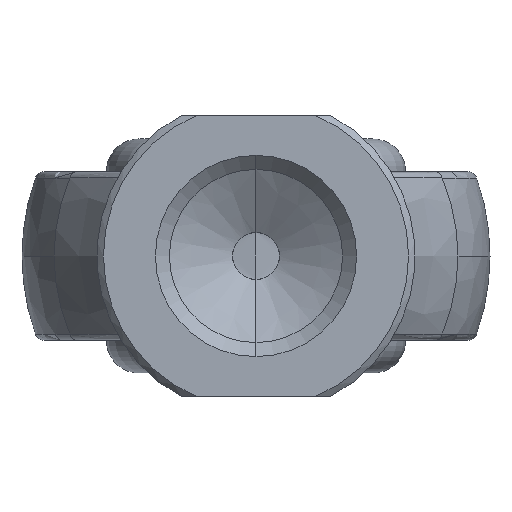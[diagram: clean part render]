
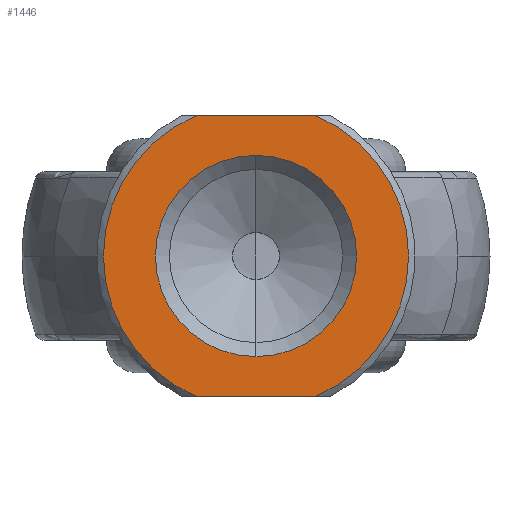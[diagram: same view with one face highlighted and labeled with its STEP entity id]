
A CAD part, left-side view. The second image highlights one B-rep face of the part: STEP entity #1446.
In plain terms, the highlighted planar face has unit normal (-1, 0, 0).
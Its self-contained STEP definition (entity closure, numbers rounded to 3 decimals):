
#5 = EDGE_CURVE ( 'NONE', #1125, #1713, #570, .T. ) ;
#58 = EDGE_CURVE ( 'NONE', #2179, #814, #1355, .T. ) ;
#89 = DIRECTION ( 'NONE',  ( 0., 1., 0. ) ) ;
#96 = VECTOR ( 'NONE', #2101, 1000. ) ;
#101 = AXIS2_PLACEMENT_3D ( 'NONE', #1178, #823, #1335 ) ;
#152 = EDGE_LOOP ( 'NONE', ( #674, #1802 ) ) ;
#211 = AXIS2_PLACEMENT_3D ( 'NONE', #967, #1475, #89 ) ;
#298 = CARTESIAN_POINT ( 'NONE',  ( 0., 0., 0. ) ) ;
#308 = DIRECTION ( 'NONE',  ( 0., 0., -1. ) ) ;
#338 = VERTEX_POINT ( 'NONE', #2118 ) ;
#439 = FACE_OUTER_BOUND ( 'NONE', #1238, .T. ) ;
#464 = AXIS2_PLACEMENT_3D ( 'NONE', #925, #1626, #962 ) ;
#477 = CARTESIAN_POINT ( 'NONE',  ( 0., 8., -15. ) ) ;
#541 = CARTESIAN_POINT ( 'NONE',  ( 0., 6.379, 15. ) ) ;
#570 = CIRCLE ( 'NONE', #861, 10.75 ) ;
#571 = CIRCLE ( 'NONE', #101, 10.75 ) ;
#674 = ORIENTED_EDGE ( 'NONE', *, *, #1218, .T. ) ;
#734 = ORIENTED_EDGE ( 'NONE', *, *, #2234, .T. ) ;
#814 = VERTEX_POINT ( 'NONE', #1747 ) ;
#823 = DIRECTION ( 'NONE',  ( 1., 0., 0. ) ) ;
#861 = AXIS2_PLACEMENT_3D ( 'NONE', #298, #2236, #308 ) ;
#886 = CARTESIAN_POINT ( 'NONE',  ( 0., 0., 0. ) ) ;
#902 = CARTESIAN_POINT ( 'NONE',  ( 0., 0., -10.75 ) ) ;
#925 = CARTESIAN_POINT ( 'NONE',  ( 0., 0., 0. ) ) ;
#933 = PLANE ( 'NONE',  #211 ) ;
#937 = CIRCLE ( 'NONE', #1886, 16.3 ) ;
#962 = DIRECTION ( 'NONE',  ( 0., 0., -1. ) ) ;
#967 = CARTESIAN_POINT ( 'NONE',  ( 0., 9.25, 0. ) ) ;
#1024 = DIRECTION ( 'NONE',  ( -1., 0., 0. ) ) ;
#1125 = VERTEX_POINT ( 'NONE', #902 ) ;
#1142 = ORIENTED_EDGE ( 'NONE', *, *, #2093, .F. ) ;
#1160 = DIRECTION ( 'NONE',  ( 0., 1., 0. ) ) ;
#1178 = CARTESIAN_POINT ( 'NONE',  ( 0., 0., 0. ) ) ;
#1202 = LINE ( 'NONE', #1378, #96 ) ;
#1208 = ORIENTED_EDGE ( 'NONE', *, *, #58, .F. ) ;
#1218 = EDGE_CURVE ( 'NONE', #1713, #1125, #571, .T. ) ;
#1238 = EDGE_LOOP ( 'NONE', ( #1208, #1703, #1142, #734 ) ) ;
#1335 = DIRECTION ( 'NONE',  ( 0., 0., -1. ) ) ;
#1355 = LINE ( 'NONE', #477, #1620 ) ;
#1378 = CARTESIAN_POINT ( 'NONE',  ( 0., 8., 15. ) ) ;
#1403 = EDGE_CURVE ( 'NONE', #2179, #338, #937, .T. ) ;
#1446 = ADVANCED_FACE ( 'NONE', ( #1972, #439 ), #933, .F. ) ;
#1475 = DIRECTION ( 'NONE',  ( 1., 0., 0. ) ) ;
#1620 = VECTOR ( 'NONE', #1160, 1000. ) ;
#1626 = DIRECTION ( 'NONE',  ( -1., 0., 0. ) ) ;
#1658 = CIRCLE ( 'NONE', #464, 16.3 ) ;
#1703 = ORIENTED_EDGE ( 'NONE', *, *, #1403, .T. ) ;
#1713 = VERTEX_POINT ( 'NONE', #1993 ) ;
#1747 = CARTESIAN_POINT ( 'NONE',  ( 0., 6.379, -15. ) ) ;
#1802 = ORIENTED_EDGE ( 'NONE', *, *, #5, .T. ) ;
#1886 = AXIS2_PLACEMENT_3D ( 'NONE', #886, #1024, #2052 ) ;
#1972 = FACE_BOUND ( 'NONE', #152, .T. ) ;
#1993 = CARTESIAN_POINT ( 'NONE',  ( 0., 0., 10.75 ) ) ;
#2052 = DIRECTION ( 'NONE',  ( 0., 0., -1. ) ) ;
#2093 = EDGE_CURVE ( 'NONE', #2095, #338, #1202, .T. ) ;
#2095 = VERTEX_POINT ( 'NONE', #541 ) ;
#2101 = DIRECTION ( 'NONE',  ( 0., -1., 0. ) ) ;
#2109 = CARTESIAN_POINT ( 'NONE',  ( 0., -6.379, -15. ) ) ;
#2118 = CARTESIAN_POINT ( 'NONE',  ( 0., -6.379, 15. ) ) ;
#2179 = VERTEX_POINT ( 'NONE', #2109 ) ;
#2234 = EDGE_CURVE ( 'NONE', #2095, #814, #1658, .T. ) ;
#2236 = DIRECTION ( 'NONE',  ( 1., 0., 0. ) ) ;
